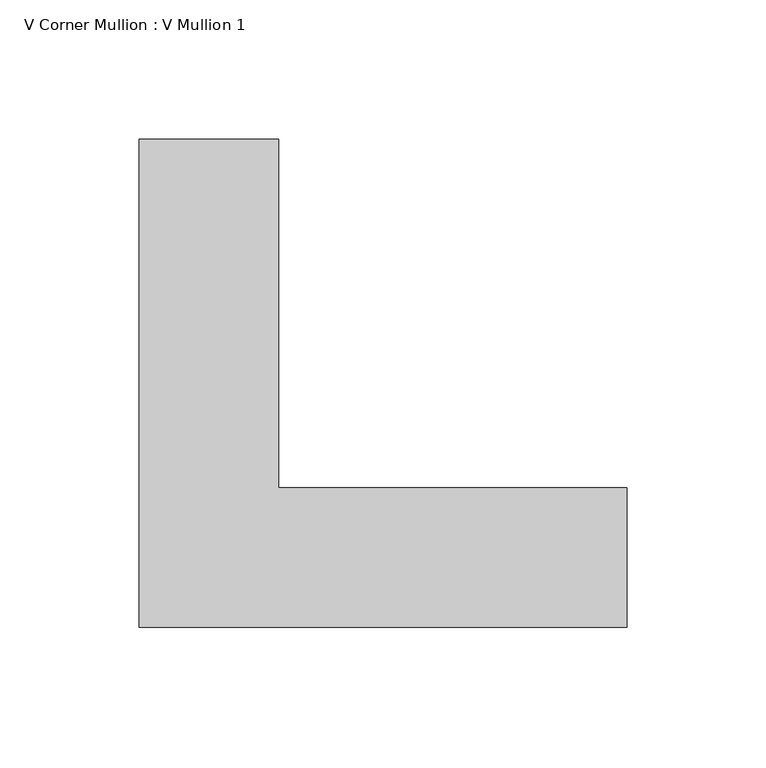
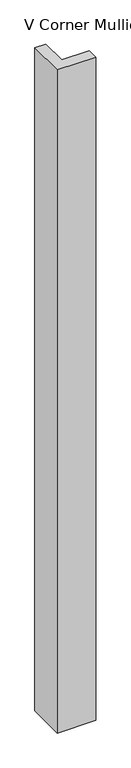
"""IFC4 building model written with IfcOpenShell, lengths in millimetres: member geometry, V Corner Mullion : V Mullion 1."""

import ifcopenshell
import ifcopenshell.guid

model = None  # the IFC model being written
_history = None  # IfcOwnerHistory: only IFC2X3 demands one
_inside = {}  # id of a spatial element -> (the spatial element, [elements in it])
_under = {}  # id of a project, library or spatial element -> (it, [spatial elements below it])
_declared = {}  # id of a project -> (the project, [libraries it declares])
_typed = {}  # id of a type object -> (the type object, [elements of that type])
_made_of = {}  # id of a material, layer set ... -> (it, [elements and type objects made of it])


def new_model(schema):
    """Start an empty IFC model of exactly this schema.

    Asked for "IFC4X3", IfcOpenShell would pick the latest addendum, in which some entities
    have other attributes; the version numbers below select the first issue.
    IFC2X3 requires an IfcOwnerHistory on every rooted entity: one is made here for all.
    """
    global model, _history
    if schema == "IFC4X3":
        model = ifcopenshell.file(schema_version=(4, 3, 0, 0))
    else:
        model = ifcopenshell.file(schema=schema)
    _inside.clear()
    _under.clear()
    _declared.clear()
    _typed.clear()
    _made_of.clear()
    _history = None
    if model.schema == "IFC2X3":
        org = make("IfcOrganization", Name="unknown")
        user = make(
            "IfcPersonAndOrganization",
            ThePerson=make("IfcPerson", FamilyName="unknown"),
            TheOrganization=org,
        )
        app = make(
            "IfcApplication",
            ApplicationDeveloper=org,
            Version="unknown",
            ApplicationFullName="unknown",
            ApplicationIdentifier="unknown",
        )
        _history = make(
            "IfcOwnerHistory",
            OwningUser=user,
            OwningApplication=app,
            ChangeAction="ADDED",
            CreationDate=0,
        )
    return model


def make(cls, **values):
    """One entity of the class cls with the attributes given. An attribute that is None is left unset."""
    return model.create_entity(
        cls, **{name: value for name, value in values.items() if value is not None}
    )


def rooted(cls, **values):
    """An entity with a GlobalId (a new one), such as an element, a storey or a relation."""
    return make(cls, GlobalId=ifcopenshell.guid.new(), OwnerHistory=_history, **values)


def si_unit(unit_type, name, prefix=None):
    """IfcSIUnit, for example si_unit("LENGTHUNIT", "METRE", prefix="MILLI")."""
    return make("IfcSIUnit", UnitType=unit_type, Prefix=prefix, Name=name)


def assignment(units):
    """IfcUnitAssignment: the units of a project."""
    return None if units is None else make("IfcUnitAssignment", Units=units)


def point(xyz):
    """IfcCartesianPoint."""
    return None if xyz is None else make("IfcCartesianPoint", Coordinates=xyz)


def direction(xyz):
    """IfcDirection."""
    return None if xyz is None else make("IfcDirection", DirectionRatios=xyz)


def frame(location, z_axis=None, x_axis=None):
    """IfcAxis2Placement3D, a coordinate frame: its origin and axes. An axis left out is left unset."""
    return make(
        "IfcAxis2Placement3D",
        Location=point(location),
        Axis=direction(z_axis),
        RefDirection=direction(x_axis),
    )


def origin():
    """The frame at (0, 0, 0) with its axes left unset."""
    return frame((0.0, 0.0, 0.0))


def place(relative_to, where):
    """IfcLocalPlacement: puts the frame where relative to a parent placement (None: the world)."""
    return make(
        "IfcLocalPlacement", PlacementRelTo=relative_to, RelativePlacement=where
    )


def context(
    kind, dimensions, precision=None, world=None, true_north=None, identifier=None
):
    """IfcGeometricRepresentationContext, for example the 3D "Model" context."""
    return make(
        "IfcGeometricRepresentationContext",
        ContextIdentifier=identifier,
        ContextType=kind,
        CoordinateSpaceDimension=dimensions,
        Precision=precision,
        WorldCoordinateSystem=world,
        TrueNorth=true_north,
    )


def project(units=None, contexts=None):
    """IfcProject with its units and contexts."""
    return rooted(
        "IfcProject",
        Name="project",
        RepresentationContexts=contexts,
        UnitsInContext=assignment(units),
    )


def spatial(cls, under=None, at=None, **own):
    """A site, building, storey or space (cls), placed at a placement, below another one or the project."""
    s = rooted(cls, ObjectPlacement=at, **own)
    if under is not None:
        _under.setdefault(under.id(), (under, []))[1].append(s)
    return s


def polyline(points):
    """IfcPolyline through the points."""
    return make("IfcPolyline", Points=[point(p) for p in points])


def outline(outer, holes=None, kind="AREA"):
    """IfcArbitraryClosedProfileDef: a profile drawn as a closed curve; with holes, ...WithVoids."""
    if holes is None:
        return make("IfcArbitraryClosedProfileDef", ProfileType=kind, OuterCurve=outer)
    return make(
        "IfcArbitraryProfileDefWithVoids",
        ProfileType=kind,
        OuterCurve=outer,
        InnerCurves=holes,
    )


def extrude(swept, where, along, depth):
    """IfcExtrudedAreaSolid: the profile swept, set in the frame where, extruded along a direction by depth."""
    return make(
        "IfcExtrudedAreaSolid",
        SweptArea=swept,
        Position=where,
        ExtrudedDirection=direction(along),
        Depth=depth,
    )


def shape(context_of_items, identifier, shape_type, items):
    """IfcShapeRepresentation: the items that make up one representation, for example the "Body"."""
    return make(
        "IfcShapeRepresentation",
        ContextOfItems=context_of_items,
        RepresentationIdentifier=identifier,
        RepresentationType=shape_type,
        Items=items,
    )


def source(mapping_origin, context_of_items, identifier, shape_type, items):
    """IfcRepresentationMap: a shape defined once, which mapped items show again and again."""
    return make(
        "IfcRepresentationMap",
        MappingOrigin=mapping_origin,
        MappedRepresentation=shape(context_of_items, identifier, shape_type, items),
    )


def transform(
    local_origin,
    x_axis=None,
    y_axis=None,
    z_axis=None,
    scale=None,
    scale2=None,
    scale3=None,
    uniform=True,
):
    """IfcCartesianTransformationOperator3D, or its non-uniform kind. x_axis, y_axis, z_axis: its Axis1, 2, 3."""
    if uniform:
        return make(
            "IfcCartesianTransformationOperator3D",
            Axis1=direction(x_axis),
            Axis2=direction(y_axis),
            LocalOrigin=point(local_origin),
            Scale=scale,
            Axis3=direction(z_axis),
        )
    return make(
        "IfcCartesianTransformationOperator3DnonUniform",
        Axis1=direction(x_axis),
        Axis2=direction(y_axis),
        LocalOrigin=point(local_origin),
        Scale=scale,
        Axis3=direction(z_axis),
        Scale2=scale2,
        Scale3=scale3,
    )


def mapped(mapping_source, mapping_target):
    """IfcMappedItem: shows the shape of a source again, moved by a transform."""
    return make(
        "IfcMappedItem", MappingSource=mapping_source, MappingTarget=mapping_target
    )


def made_of(thing, what):
    """Note that an element or type object is made of a material, layer set ...; save() writes the relation."""
    if what is not None:
        _made_of.setdefault(what.id(), (what, []))[1].append(thing)
    return thing


def element(
    cls,
    number,
    at=None,
    inside=None,
    cuts=None,
    type_object=None,
    material=None,
    context=None,
    identifier="Body",
    shape_type=None,
    held_by="IfcProductDefinitionShape",
    body=None,
    shapes=None,
    **own,
):
    """One element of the class cls, such as IfcWall. Its Tag is "e" and its number.

    at: its placement. inside: the storey or other place that contains it. cuts: it is an
    opening in that element (IfcRelVoidsElement). A single representation is given by context,
    identifier, shape_type and body (its items); several are given by shapes. held_by: the class
    of the entity that holds the representations. save() writes the other relations.
    """
    e = rooted(cls, Tag="e%d" % number, ObjectPlacement=at, **own)
    if body is not None:
        shapes = [shape(context, identifier, shape_type, body)]
    if shapes is not None:
        e.Representation = make(held_by, Representations=shapes)
    if inside is not None:
        _inside.setdefault(inside.id(), (inside, []))[1].append(e)
    if cuts is not None:
        rooted(
            "IfcRelVoidsElement", RelatingBuildingElement=cuts, RelatedOpeningElement=e
        )
    if type_object is not None:
        _typed.setdefault(type_object.id(), (type_object, []))[1].append(e)
    return made_of(e, material)


def aggregate(whole, parts):
    """IfcRelAggregates: a whole, such as a stair, and the parts it consists of."""
    return rooted("IfcRelAggregates", RelatingObject=whole, RelatedObjects=parts)


def save(model, path):
    """Write the relations noted so far, then the file.

    IfcRelAggregates (storeys below a building ...), IfcRelContainedInSpatialStructure (elements
    in a storey), IfcRelDefinesByType, IfcRelAssociatesMaterial and IfcRelDeclares: one each for
    every whole, place, type object, material and project.
    """
    for whole, parts in _under.values():
        aggregate(whole, parts)
    for where, things in _inside.values():
        rooted(
            "IfcRelContainedInSpatialStructure",
            RelatedElements=things,
            RelatingStructure=where,
        )
    for kind, things in _typed.values():
        rooted("IfcRelDefinesByType", RelatedObjects=things, RelatingType=kind)
    for what, things in _made_of.values():
        rooted("IfcRelAssociatesMaterial", RelatedObjects=things, RelatingMaterial=what)
    for by, libraries in _declared.values():
        rooted("IfcRelDeclares", RelatingContext=by, RelatedDefinitions=libraries)
    model.write(path)


def v_corner_mullion_v_mullion_1_6526e4b7(model_context):
    return source(origin(), model_context, "Body", "SweptSolid", [
        extrude(outline(polyline([(75.0, -100.0), (-100.0, -100.0), (-100.0, 75.0), (-50.0, 75.0), (-50.0, -50.0), (75.0, -50.0), (75.0, -100.0)])), frame((0.0, 0.0, -3175.0), z_axis=(0.0, 0.0, 1.0), x_axis=(1.0, 0.0, 0.0)), (0.0, 0.0, 1.0), 3175.0),
    ])


if __name__ == "__main__":
    model = new_model("IFC4")
    model_context = context("Model", 3, world=origin())
    ifc_project = project(units=[si_unit("LENGTHUNIT", "METRE", prefix="MILLI")], contexts=[model_context])
    site = spatial("IfcSite", under=ifc_project)
    building = spatial("IfcBuilding", under=site)
    placement = place(None, origin())
    v_corner_mullion_v_mullion_1_shape = v_corner_mullion_v_mullion_1_6526e4b7(model_context)
    element("IfcMember", 1, ObjectType="V Corner Mullion : V Mullion 1", at=placement, inside=building, context=model_context, shape_type="MappedRepresentation", body=[
        mapped(v_corner_mullion_v_mullion_1_shape, transform((0.0, 0.0, 0.0), x_axis=(1.0, 0.0, 0.0), y_axis=(0.0, 1.0, 0.0), z_axis=(0.0, 0.0, 1.0))),
    ])
    save(model, "model.ifc")
